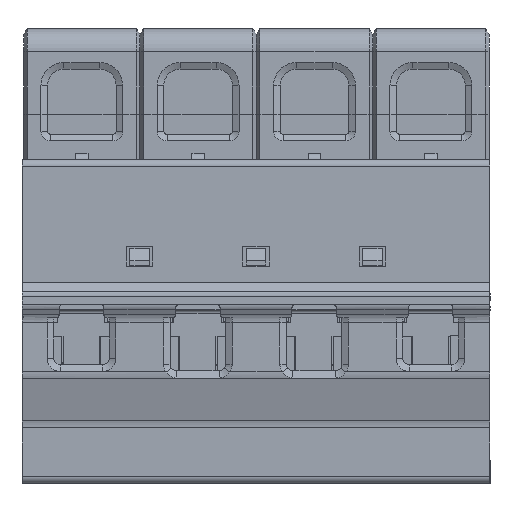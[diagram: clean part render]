
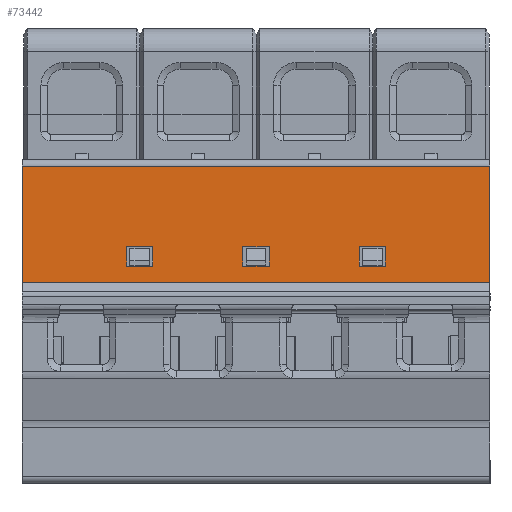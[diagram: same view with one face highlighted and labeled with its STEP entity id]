
A CAD part, left-side view. The second image highlights one B-rep face of the part: STEP entity #73442.
In plain terms, the highlighted planar face has unit normal (-1, 0, 0).
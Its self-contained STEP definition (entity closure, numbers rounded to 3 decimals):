
#142=DIRECTION('',(0.,0.,1.));
#143=VECTOR('',#142,17.8);
#144=CARTESIAN_POINT('',(-0.05,0.,25.2));
#145=LINE('',#144,#143);
#3994=DIRECTION('',(0.,0.,1.));
#3995=VECTOR('',#3994,17.8);
#3996=CARTESIAN_POINT('',(-0.05,71.6,25.2));
#3997=LINE('',#3996,#3995);
#3998=DIRECTION('',(0.,1.,0.));
#3999=VECTOR('',#3998,71.6);
#4000=CARTESIAN_POINT('',(-0.05,0.,25.2));
#4001=LINE('',#4000,#3999);
#4002=DIRECTION('',(0.,0.,1.));
#4003=VECTOR('',#4002,3.);
#4004=CARTESIAN_POINT('',(-0.05,33.8,27.7));
#4005=LINE('',#4004,#4003);
#4006=DIRECTION('',(0.,1.,0.));
#4007=VECTOR('',#4006,4.);
#4008=CARTESIAN_POINT('',(-0.05,33.8,30.7));
#4009=LINE('',#4008,#4007);
#4010=DIRECTION('',(0.,0.,-1.));
#4011=VECTOR('',#4010,3.);
#4012=CARTESIAN_POINT('',(-0.05,37.8,30.7));
#4013=LINE('',#4012,#4011);
#4014=DIRECTION('',(0.,-1.,0.));
#4015=VECTOR('',#4014,4.);
#4016=CARTESIAN_POINT('',(-0.05,37.8,27.7));
#4017=LINE('',#4016,#4015);
#4018=DIRECTION('',(0.,1.,0.));
#4019=VECTOR('',#4018,4.);
#4020=CARTESIAN_POINT('',(-0.05,16.,30.7));
#4021=LINE('',#4020,#4019);
#4022=DIRECTION('',(0.,0.,-1.));
#4023=VECTOR('',#4022,3.);
#4024=CARTESIAN_POINT('',(-0.05,20.,30.7));
#4025=LINE('',#4024,#4023);
#4026=DIRECTION('',(0.,0.,-1.));
#4027=VECTOR('',#4026,3.);
#4028=CARTESIAN_POINT('',(-0.05,55.6,30.7));
#4029=LINE('',#4028,#4027);
#4030=DIRECTION('',(0.,-1.,0.));
#4031=VECTOR('',#4030,4.);
#4032=CARTESIAN_POINT('',(-0.05,55.6,27.7));
#4033=LINE('',#4032,#4031);
#4034=DIRECTION('',(0.,1.,0.));
#4035=VECTOR('',#4034,71.6);
#4036=CARTESIAN_POINT('',(-0.05,0.,43.));
#4037=LINE('',#4036,#4035);
#21461=DIRECTION('',(0.,1.,0.));
#21462=VECTOR('',#21461,4.);
#21463=CARTESIAN_POINT('',(-0.05,16.,27.7));
#21464=LINE('',#21463,#21462);
#21469=DIRECTION('',(0.,0.,-1.));
#21470=VECTOR('',#21469,3.);
#21471=CARTESIAN_POINT('',(-0.05,16.,30.7));
#21472=LINE('',#21471,#21470);
#26801=DIRECTION('',(0.,-1.,0.));
#26802=VECTOR('',#26801,4.);
#26803=CARTESIAN_POINT('',(-0.05,55.6,30.7));
#26804=LINE('',#26803,#26802);
#26817=DIRECTION('',(0.,0.,-1.));
#26818=VECTOR('',#26817,3.);
#26819=CARTESIAN_POINT('',(-0.05,51.6,30.7));
#26820=LINE('',#26819,#26818);
#53794=CARTESIAN_POINT('',(-0.05,0.,25.2));
#53795=VERTEX_POINT('',#53794);
#53796=CARTESIAN_POINT('',(-0.05,0.,43.));
#53797=VERTEX_POINT('',#53796);
#54634=CARTESIAN_POINT('',(-0.05,71.6,43.));
#54635=VERTEX_POINT('',#54634);
#54636=CARTESIAN_POINT('',(-0.05,71.6,25.2));
#54637=VERTEX_POINT('',#54636);
#55706=CARTESIAN_POINT('',(-0.05,33.8,27.7));
#55707=CARTESIAN_POINT('',(-0.05,33.8,30.7));
#55708=VERTEX_POINT('',#55706);
#55709=VERTEX_POINT('',#55707);
#55710=CARTESIAN_POINT('',(-0.05,37.8,30.7));
#55711=VERTEX_POINT('',#55710);
#55712=CARTESIAN_POINT('',(-0.05,37.8,27.7));
#55713=VERTEX_POINT('',#55712);
#55714=CARTESIAN_POINT('',(-0.05,16.,30.7));
#55715=CARTESIAN_POINT('',(-0.05,16.,27.7));
#55716=VERTEX_POINT('',#55714);
#55717=VERTEX_POINT('',#55715);
#55718=CARTESIAN_POINT('',(-0.05,20.,30.7));
#55719=VERTEX_POINT('',#55718);
#55720=CARTESIAN_POINT('',(-0.05,20.,27.7));
#55721=VERTEX_POINT('',#55720);
#55722=CARTESIAN_POINT('',(-0.05,55.6,30.7));
#55723=CARTESIAN_POINT('',(-0.05,55.6,27.7));
#55724=VERTEX_POINT('',#55722);
#55725=VERTEX_POINT('',#55723);
#55726=CARTESIAN_POINT('',(-0.05,51.6,27.7));
#55727=VERTEX_POINT('',#55726);
#55728=CARTESIAN_POINT('',(-0.05,51.6,30.7));
#55729=VERTEX_POINT('',#55728);
#73400=CARTESIAN_POINT('',(-0.05,35.8,-5.5));
#73401=DIRECTION('',(-1.,0.,0.));
#73402=DIRECTION('',(0.,0.,1.));
#73403=AXIS2_PLACEMENT_3D('',#73400,#73401,#73402);
#73404=PLANE('',#73403);
#73405=ORIENTED_EDGE('',*,*,#71469,.T.);
#73407=ORIENTED_EDGE('',*,*,#73406,.F.);
#73408=ORIENTED_EDGE('',*,*,#70471,.F.);
#73409=ORIENTED_EDGE('',*,*,#73394,.T.);
#73410=EDGE_LOOP('',(#73405,#73407,#73408,#73409));
#73411=FACE_OUTER_BOUND('',#73410,.F.);
#73413=ORIENTED_EDGE('',*,*,#73412,.T.);
#73415=ORIENTED_EDGE('',*,*,#73414,.T.);
#73417=ORIENTED_EDGE('',*,*,#73416,.T.);
#73419=ORIENTED_EDGE('',*,*,#73418,.T.);
#73420=EDGE_LOOP('',(#73413,#73415,#73417,#73419));
#73421=FACE_BOUND('',#73420,.F.);
#73423=ORIENTED_EDGE('',*,*,#73422,.F.);
#73425=ORIENTED_EDGE('',*,*,#73424,.T.);
#73427=ORIENTED_EDGE('',*,*,#73426,.T.);
#73429=ORIENTED_EDGE('',*,*,#73428,.F.);
#73430=EDGE_LOOP('',(#73423,#73425,#73427,#73429));
#73431=FACE_BOUND('',#73430,.F.);
#73433=ORIENTED_EDGE('',*,*,#73432,.T.);
#73435=ORIENTED_EDGE('',*,*,#73434,.T.);
#73437=ORIENTED_EDGE('',*,*,#73436,.F.);
#73439=ORIENTED_EDGE('',*,*,#73438,.F.);
#73440=EDGE_LOOP('',(#73433,#73435,#73437,#73439));
#73441=FACE_BOUND('',#73440,.F.);
#73442=ADVANCED_FACE('',(#73411,#73421,#73431,#73441),#73404,.T.);
#70471=EDGE_CURVE('',#53795,#53797,#145,.T.);
#71469=EDGE_CURVE('',#54637,#54635,#3997,.T.);
#73394=EDGE_CURVE('',#53795,#54637,#4001,.T.);
#73406=EDGE_CURVE('',#53797,#54635,#4037,.T.);
#73412=EDGE_CURVE('',#55708,#55709,#4005,.T.);
#73414=EDGE_CURVE('',#55709,#55711,#4009,.T.);
#73416=EDGE_CURVE('',#55711,#55713,#4013,.T.);
#73418=EDGE_CURVE('',#55713,#55708,#4017,.T.);
#73422=EDGE_CURVE('',#55716,#55717,#21472,.T.);
#73424=EDGE_CURVE('',#55716,#55719,#4021,.T.);
#73426=EDGE_CURVE('',#55719,#55721,#4025,.T.);
#73428=EDGE_CURVE('',#55717,#55721,#21464,.T.);
#73432=EDGE_CURVE('',#55724,#55725,#4029,.T.);
#73434=EDGE_CURVE('',#55725,#55727,#4033,.T.);
#73436=EDGE_CURVE('',#55729,#55727,#26820,.T.);
#73438=EDGE_CURVE('',#55724,#55729,#26804,.T.);
